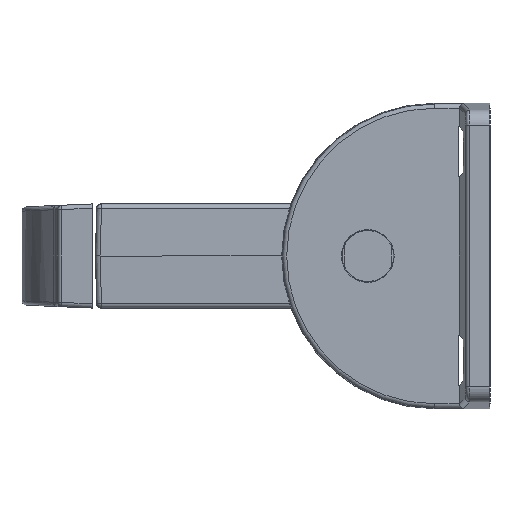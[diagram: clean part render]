
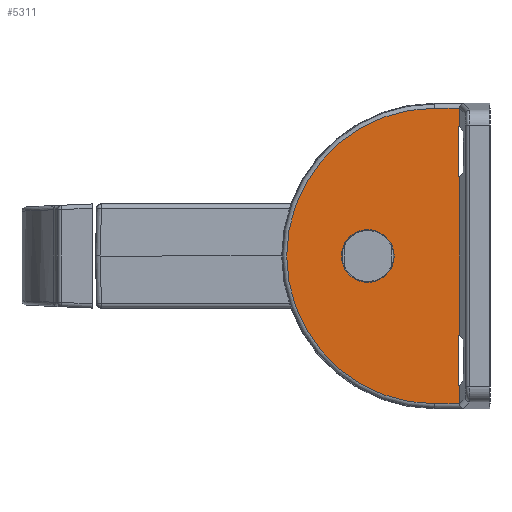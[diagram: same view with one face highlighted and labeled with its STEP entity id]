
A CAD part, left-side view. The second image highlights one B-rep face of the part: STEP entity #5311.
In plain terms, the highlighted planar face has unit normal (-1, 0, 0) as drawn and (0, 0, 1) by its records, which use the part's own axes.
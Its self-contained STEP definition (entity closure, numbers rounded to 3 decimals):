
#285=CIRCLE('',#5754,4.815);
#286=CIRCLE('',#5756,27.024);
#490=ELLIPSE('',#5755,0.788,0.787);
#491=ELLIPSE('',#5757,0.788,0.787);
#1366=ORIENTED_EDGE('',*,*,#2091,.T.);
#1367=ORIENTED_EDGE('',*,*,#2092,.T.);
#1368=ORIENTED_EDGE('',*,*,#2093,.T.);
#1369=ORIENTED_EDGE('',*,*,#2094,.T.);
#1370=ORIENTED_EDGE('',*,*,#2095,.T.);
#1371=ORIENTED_EDGE('',*,*,#2096,.T.);
#1372=ORIENTED_EDGE('',*,*,#2097,.F.);
#1373=ORIENTED_EDGE('',*,*,#2098,.T.);
#1374=ORIENTED_EDGE('',*,*,#2099,.F.);
#1375=ORIENTED_EDGE('',*,*,#2100,.T.);
#1376=ORIENTED_EDGE('',*,*,#2101,.F.);
#1377=ORIENTED_EDGE('',*,*,#2102,.T.);
#1378=ORIENTED_EDGE('',*,*,#2103,.F.);
#1379=ORIENTED_EDGE('',*,*,#2104,.T.);
#1380=ORIENTED_EDGE('',*,*,#2105,.F.);
#2091=EDGE_CURVE('',#2487,#2487,#285,.F.);
#2092=EDGE_CURVE('',#2488,#2489,#490,.F.);
#2093=EDGE_CURVE('',#2489,#2490,#2768,.F.);
#2094=EDGE_CURVE('',#2490,#2491,#286,.T.);
#2095=EDGE_CURVE('',#2491,#2492,#2769,.F.);
#2096=EDGE_CURVE('',#2492,#2493,#491,.F.);
#2097=EDGE_CURVE('',#2494,#2493,#2770,.T.);
#2098=EDGE_CURVE('',#2494,#2495,#2771,.T.);
#2099=EDGE_CURVE('',#2496,#2495,#2772,.T.);
#2100=EDGE_CURVE('',#2496,#2497,#2773,.T.);
#2101=EDGE_CURVE('',#2498,#2497,#2774,.T.);
#2102=EDGE_CURVE('',#2498,#2499,#2775,.T.);
#2103=EDGE_CURVE('',#2500,#2499,#2776,.T.);
#2104=EDGE_CURVE('',#2500,#2501,#2777,.T.);
#2105=EDGE_CURVE('',#2488,#2501,#2778,.T.);
#2487=VERTEX_POINT('',#8608);
#2488=VERTEX_POINT('',#8610);
#2489=VERTEX_POINT('',#8611);
#2490=VERTEX_POINT('',#8613);
#2491=VERTEX_POINT('',#8615);
#2492=VERTEX_POINT('',#8617);
#2493=VERTEX_POINT('',#8619);
#2494=VERTEX_POINT('',#8621);
#2495=VERTEX_POINT('',#8623);
#2496=VERTEX_POINT('',#8625);
#2497=VERTEX_POINT('',#8627);
#2498=VERTEX_POINT('',#8629);
#2499=VERTEX_POINT('',#8631);
#2500=VERTEX_POINT('',#8633);
#2501=VERTEX_POINT('',#8635);
#2768=LINE('',#8612,#3044);
#2769=LINE('',#8616,#3045);
#2770=LINE('',#8620,#3046);
#2771=LINE('',#8622,#3047);
#2772=LINE('',#8624,#3048);
#2773=LINE('',#8626,#3049);
#2774=LINE('',#8628,#3050);
#2775=LINE('',#8630,#3051);
#2776=LINE('',#8632,#3052);
#2777=LINE('',#8634,#3053);
#2778=LINE('',#8636,#3054);
#3044=VECTOR('',#6812,1000.);
#3045=VECTOR('',#6815,1000.);
#3046=VECTOR('',#6818,1000.);
#3047=VECTOR('',#6819,1000.);
#3048=VECTOR('',#6820,1000.);
#3049=VECTOR('',#6821,1000.);
#3050=VECTOR('',#6822,1000.);
#3051=VECTOR('',#6823,1000.);
#3052=VECTOR('',#6824,1000.);
#3053=VECTOR('',#6825,1000.);
#3054=VECTOR('',#6826,1000.);
#3329=EDGE_LOOP('',(#1366));
#3330=EDGE_LOOP('',(#1367,#1368,#1369,#1370,#1371,#1372,#1373,#1374,#1375,
#1376,#1377,#1378,#1379,#1380));
#3608=FACE_BOUND('',#3329,.T.);
#3609=FACE_BOUND('',#3330,.T.);
#3730=PLANE('',#5753);
#5311=ADVANCED_FACE('',(#3608,#3609),#3730,.T.);
#5753=AXIS2_PLACEMENT_3D('',#8606,#6806,#6807);
#5754=AXIS2_PLACEMENT_3D('',#8607,#6808,#6809);
#5755=AXIS2_PLACEMENT_3D('',#8609,#6810,#6811);
#5756=AXIS2_PLACEMENT_3D('',#8614,#6813,#6814);
#5757=AXIS2_PLACEMENT_3D('',#8618,#6816,#6817);
#6806=DIRECTION('',(0.,0.,1.));
#6807=DIRECTION('',(1.,0.,0.));
#6808=DIRECTION('',(0.,0.,1.));
#6809=DIRECTION('',(1.,0.,0.));
#6810=DIRECTION('',(0.,0.,1.));
#6811=DIRECTION('',(0.707,0.707,0.));
#6812=DIRECTION('',(0.,-1.,0.));
#6813=DIRECTION('',(0.,0.,1.));
#6814=DIRECTION('',(1.,0.,0.));
#6815=DIRECTION('',(0.,1.,0.));
#6816=DIRECTION('',(0.,0.,1.));
#6817=DIRECTION('',(-0.707,0.707,0.));
#6818=DIRECTION('',(-1.,0.,0.));
#6819=DIRECTION('',(0.,1.,0.));
#6820=DIRECTION('',(-1.,0.,0.));
#6821=DIRECTION('',(0.,-1.,0.));
#6822=DIRECTION('',(-1.,0.,0.));
#6823=DIRECTION('',(0.,1.,0.));
#6824=DIRECTION('',(-1.,0.,0.));
#6825=DIRECTION('',(0.,-1.,0.));
#6826=DIRECTION('',(-1.,0.,0.));
#8606=CARTESIAN_POINT('',(0.,10.16,4.445));
#8607=CARTESIAN_POINT('',(0.,22.352,4.445));
#8608=CARTESIAN_POINT('',(4.815,22.352,4.445));
#8609=CARTESIAN_POINT('',(26.997,4.807,4.445));
#8610=CARTESIAN_POINT('',(26.998,5.595,4.445));
#8611=CARTESIAN_POINT('',(27.024,5.594,4.445));
#8612=CARTESIAN_POINT('',(27.024,10.16,4.445));
#8613=CARTESIAN_POINT('',(27.024,10.16,4.445));
#8614=CARTESIAN_POINT('',(0.,10.16,4.445));
#8615=CARTESIAN_POINT('',(-27.024,10.16,4.445));
#8616=CARTESIAN_POINT('',(-27.024,5.595,4.445));
#8617=CARTESIAN_POINT('',(-27.024,5.594,4.445));
#8618=CARTESIAN_POINT('',(-26.997,4.807,4.445));
#8619=CARTESIAN_POINT('',(-26.998,5.595,4.445));
#8620=CARTESIAN_POINT('',(0.,5.595,4.445));
#8621=CARTESIAN_POINT('',(-23.636,5.595,4.445));
#8622=CARTESIAN_POINT('',(-23.636,10.16,4.445));
#8623=CARTESIAN_POINT('',(-23.636,5.766,4.445));
#8624=CARTESIAN_POINT('',(0.,5.766,4.445));
#8625=CARTESIAN_POINT('',(-14.464,5.766,4.445));
#8626=CARTESIAN_POINT('',(-14.464,10.16,4.445));
#8627=CARTESIAN_POINT('',(-14.464,5.595,4.445));
#8628=CARTESIAN_POINT('',(0.,5.595,4.445));
#8629=CARTESIAN_POINT('',(14.464,5.595,4.445));
#8630=CARTESIAN_POINT('',(14.464,10.16,4.445));
#8631=CARTESIAN_POINT('',(14.464,5.766,4.445));
#8632=CARTESIAN_POINT('',(0.,5.766,4.445));
#8633=CARTESIAN_POINT('',(23.636,5.766,4.445));
#8634=CARTESIAN_POINT('',(23.636,10.16,4.445));
#8635=CARTESIAN_POINT('',(23.636,5.595,4.445));
#8636=CARTESIAN_POINT('',(0.,5.595,4.445));
